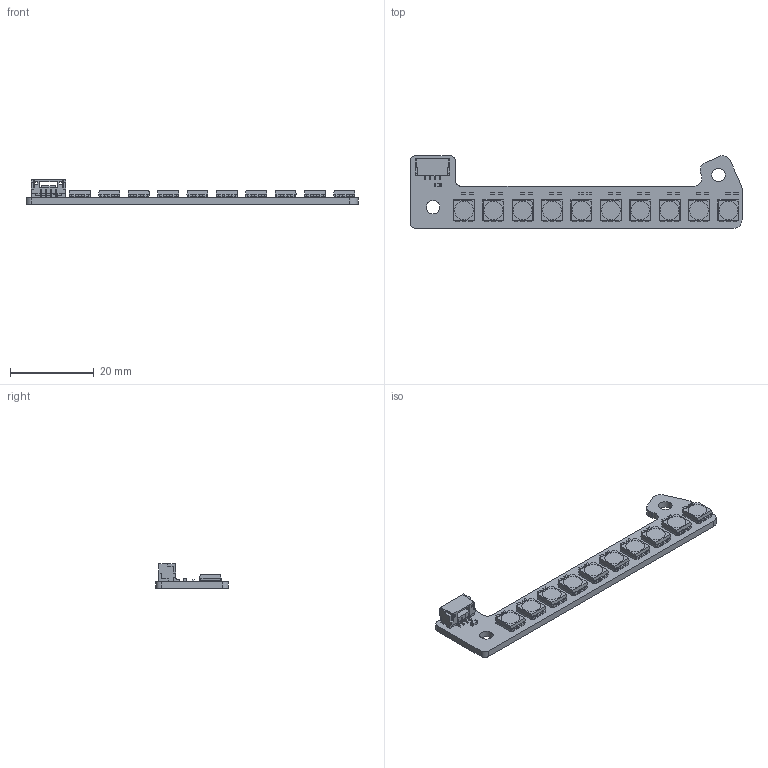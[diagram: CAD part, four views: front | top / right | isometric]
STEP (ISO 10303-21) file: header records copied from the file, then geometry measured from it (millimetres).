
FILE_DESCRIPTION(('Open CASCADE Model'),'2;1');
FILE_NAME('Open CASCADE Shape Model','2024-07-31T20:14:57',('Author'),( 'Open CASCADE'),'Open CASCADE STEP processor 7.5','Open CASCADE 7.5' ,'Unknown');
FILE_SCHEMA(('AUTOMOTIVE_DESIGN { 1 0 10303 214 1 1 1 1 }'));
Length unit declared in the file: millimetre
Products named in the file (39): PCB; Board; Open CASCADE STEP translator 7.5 2.1.1; C17; CAPC1005X50a; C15; C13; C11; C9; C7; C5; C3; C1; C18; C16; C14; C12; C10; C8; C6; C4; C2; C19; C20; C21; CAPC1608X80L; J1; SM04B-GHS-TB; D10; WS2815--3DModel-STEP-269445; D9; D8; D7; D6; D5; D4; D3; D2; D1
Assembly tree (66 placements, depth 3):
  PCB
    Board
      Open CASCADE STEP translator 7.5 2.1.1
    C17
      CAPC1005X50a
    C15
      CAPC1005X50a
    C13
      CAPC1005X50a
    C11
      CAPC1005X50a
    C9
      CAPC1005X50a
    C7
      CAPC1005X50a
    C5
      CAPC1005X50a
    C3
      CAPC1005X50a
    C1
      CAPC1005X50a
    C18
      CAPC1005X50a
    C16
      CAPC1005X50a
    C14
      CAPC1005X50a
    C12
      CAPC1005X50a
    C10
      CAPC1005X50a
    C8
      CAPC1005X50a
    C6
      CAPC1005X50a
    C4
      CAPC1005X50a
    C2
      CAPC1005X50a
    C19
      CAPC1005X50a
    C20
      CAPC1005X50a
    C21
      CAPC1608X80L
    J1
      SM04B-GHS-TB
    D10
      WS2815--3DModel-STEP-269445
    D9
      WS2815--3DModel-STEP-269445
    D8
      WS2815--3DModel-STEP-269445
    D7
      WS2815--3DModel-STEP-269445
    D6
      WS2815--3DModel-STEP-269445
    D5
      WS2815--3DModel-STEP-269445
    D4
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Bounding box: 79.1 x 17.26 x 5.91 mm (x, y, z)
Volume: 1912.2 mm3; surface area: 4001.9 mm2
Topology: 109 solids, 109 shells, 2608 faces, 6420 edges, 4096 vertices
Faces by surface type: plane 1561, cylinder 839, sphere 168, cone 40
Full cylindrical faces by diameter (mm): 3.2 x2
Entity records: 15591 total; most frequent: CARTESIAN_POINT 2564, DIRECTION 2504, ORIENTED_EDGE 2460, EDGE_CURVE 1230, LINE 1024, VECTOR 1024, VERTEX_POINT 800, AXIS2_PLACEMENT_3D 740
